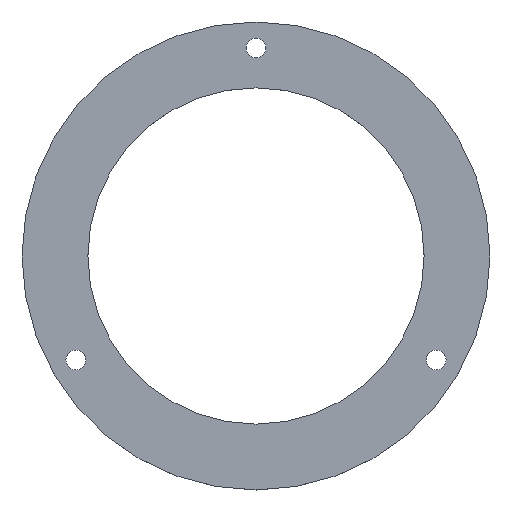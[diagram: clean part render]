
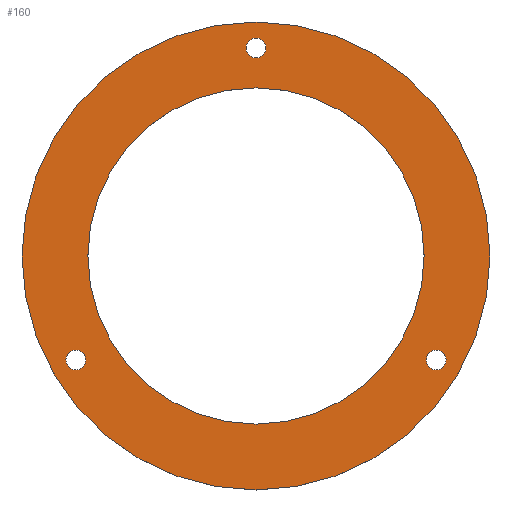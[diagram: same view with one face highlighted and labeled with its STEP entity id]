
A CAD part, top view. The second image highlights one B-rep face of the part: STEP entity #160.
In plain terms, the highlighted planar face has unit normal (0, 0, 1).
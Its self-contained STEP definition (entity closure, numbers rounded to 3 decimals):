
#22 = VERTEX_POINT('',#23);
#23 = CARTESIAN_POINT('',(27.,0.,2.2));
#32 = CYLINDRICAL_SURFACE('',#33,27.);
#33 = AXIS2_PLACEMENT_3D('',#34,#35,#36);
#34 = CARTESIAN_POINT('',(0.,0.,2.2));
#35 = DIRECTION('',(-0.,0.,1.));
#36 = DIRECTION('',(1.,0.,0.));
#79 = EDGE_CURVE('',#22,#22,#80,.T.);
#80 = SURFACE_CURVE('',#81,(#86,#93),.PCURVE_S1.);
#81 = CIRCLE('',#82,27.);
#82 = AXIS2_PLACEMENT_3D('',#83,#84,#85);
#83 = CARTESIAN_POINT('',(0.,0.,2.2));
#84 = DIRECTION('',(0.,0.,-1.));
#85 = DIRECTION('',(1.,0.,0.));
#86 = PCURVE('',#32,#87);
#87 = DEFINITIONAL_REPRESENTATION('',(#88),#92);
#88 = LINE('',#89,#90);
#89 = CARTESIAN_POINT('',(-0.,0.));
#90 = VECTOR('',#91,1.);
#91 = DIRECTION('',(-1.,0.));
#92 = ( GEOMETRIC_REPRESENTATION_CONTEXT(2) 
PARAMETRIC_REPRESENTATION_CONTEXT() REPRESENTATION_CONTEXT('2D SPACE',''
  ) );
#93 = PCURVE('',#94,#99);
#94 = PLANE('',#95);
#95 = AXIS2_PLACEMENT_3D('',#96,#97,#98);
#96 = CARTESIAN_POINT('',(0.,0.,2.2));
#97 = DIRECTION('',(0.,0.,-1.));
#98 = DIRECTION('',(1.,0.,0.));
#99 = DEFINITIONAL_REPRESENTATION('',(#100),#104);
#100 = CIRCLE('',#101,27.);
#101 = AXIS2_PLACEMENT_2D('',#102,#103);
#102 = CARTESIAN_POINT('',(0.,0.));
#103 = DIRECTION('',(1.,0.));
#104 = ( GEOMETRIC_REPRESENTATION_CONTEXT(2) 
PARAMETRIC_REPRESENTATION_CONTEXT() REPRESENTATION_CONTEXT('2D SPACE',''
  ) );
#160 = ADVANCED_FACE('',(#161,#164,#195,#226,#257),#94,.F.);
#161 = FACE_BOUND('',#162,.F.);
#162 = EDGE_LOOP('',(#163));
#163 = ORIENTED_EDGE('',*,*,#79,.T.);
#164 = FACE_BOUND('',#165,.F.);
#165 = EDGE_LOOP('',(#166));
#166 = ORIENTED_EDGE('',*,*,#167,.F.);
#167 = EDGE_CURVE('',#168,#168,#170,.T.);
#168 = VERTEX_POINT('',#169);
#169 = CARTESIAN_POINT('',(1.15,24.,2.2));
#170 = SURFACE_CURVE('',#171,(#176,#183),.PCURVE_S1.);
#171 = CIRCLE('',#172,1.15);
#172 = AXIS2_PLACEMENT_3D('',#173,#174,#175);
#173 = CARTESIAN_POINT('',(0.,24.,2.2));
#174 = DIRECTION('',(0.,0.,-1.));
#175 = DIRECTION('',(1.,0.,0.));
#176 = PCURVE('',#94,#177);
#177 = DEFINITIONAL_REPRESENTATION('',(#178),#182);
#178 = CIRCLE('',#179,1.15);
#179 = AXIS2_PLACEMENT_2D('',#180,#181);
#180 = CARTESIAN_POINT('',(0.,-24.));
#181 = DIRECTION('',(1.,0.));
#182 = ( GEOMETRIC_REPRESENTATION_CONTEXT(2) 
PARAMETRIC_REPRESENTATION_CONTEXT() REPRESENTATION_CONTEXT('2D SPACE',''
  ) );
#183 = PCURVE('',#184,#189);
#184 = CYLINDRICAL_SURFACE('',#185,1.15);
#185 = AXIS2_PLACEMENT_3D('',#186,#187,#188);
#186 = CARTESIAN_POINT('',(0.,24.,2.2));
#187 = DIRECTION('',(-0.,0.,1.));
#188 = DIRECTION('',(1.,0.,0.));
#189 = DEFINITIONAL_REPRESENTATION('',(#190),#194);
#190 = LINE('',#191,#192);
#191 = CARTESIAN_POINT('',(-0.,0.));
#192 = VECTOR('',#193,1.);
#193 = DIRECTION('',(-1.,0.));
#194 = ( GEOMETRIC_REPRESENTATION_CONTEXT(2) 
PARAMETRIC_REPRESENTATION_CONTEXT() REPRESENTATION_CONTEXT('2D SPACE',''
  ) );
#195 = FACE_BOUND('',#196,.F.);
#196 = EDGE_LOOP('',(#197));
#197 = ORIENTED_EDGE('',*,*,#198,.F.);
#198 = EDGE_CURVE('',#199,#199,#201,.T.);
#199 = VERTEX_POINT('',#200);
#200 = CARTESIAN_POINT('',(-19.635,-12.,2.2));
#201 = SURFACE_CURVE('',#202,(#207,#214),.PCURVE_S1.);
#202 = CIRCLE('',#203,1.15);
#203 = AXIS2_PLACEMENT_3D('',#204,#205,#206);
#204 = CARTESIAN_POINT('',(-20.785,-12.,2.2));
#205 = DIRECTION('',(0.,0.,-1.));
#206 = DIRECTION('',(1.,0.,0.));
#207 = PCURVE('',#94,#208);
#208 = DEFINITIONAL_REPRESENTATION('',(#209),#213);
#209 = CIRCLE('',#210,1.15);
#210 = AXIS2_PLACEMENT_2D('',#211,#212);
#211 = CARTESIAN_POINT('',(-20.785,12.));
#212 = DIRECTION('',(1.,0.));
#213 = ( GEOMETRIC_REPRESENTATION_CONTEXT(2) 
PARAMETRIC_REPRESENTATION_CONTEXT() REPRESENTATION_CONTEXT('2D SPACE',''
  ) );
#214 = PCURVE('',#215,#220);
#215 = CYLINDRICAL_SURFACE('',#216,1.15);
#216 = AXIS2_PLACEMENT_3D('',#217,#218,#219);
#217 = CARTESIAN_POINT('',(-20.785,-12.,2.2));
#218 = DIRECTION('',(-0.,0.,1.));
#219 = DIRECTION('',(1.,0.,0.));
#220 = DEFINITIONAL_REPRESENTATION('',(#221),#225);
#221 = LINE('',#222,#223);
#222 = CARTESIAN_POINT('',(-0.,0.));
#223 = VECTOR('',#224,1.);
#224 = DIRECTION('',(-1.,0.));
#225 = ( GEOMETRIC_REPRESENTATION_CONTEXT(2) 
PARAMETRIC_REPRESENTATION_CONTEXT() REPRESENTATION_CONTEXT('2D SPACE',''
  ) );
#226 = FACE_BOUND('',#227,.F.);
#227 = EDGE_LOOP('',(#228));
#228 = ORIENTED_EDGE('',*,*,#229,.F.);
#229 = EDGE_CURVE('',#230,#230,#232,.T.);
#230 = VERTEX_POINT('',#231);
#231 = CARTESIAN_POINT('',(19.4,0.,2.2));
#232 = SURFACE_CURVE('',#233,(#238,#245),.PCURVE_S1.);
#233 = CIRCLE('',#234,19.4);
#234 = AXIS2_PLACEMENT_3D('',#235,#236,#237);
#235 = CARTESIAN_POINT('',(0.,0.,2.2));
#236 = DIRECTION('',(0.,0.,-1.));
#237 = DIRECTION('',(1.,0.,0.));
#238 = PCURVE('',#94,#239);
#239 = DEFINITIONAL_REPRESENTATION('',(#240),#244);
#240 = CIRCLE('',#241,19.4);
#241 = AXIS2_PLACEMENT_2D('',#242,#243);
#242 = CARTESIAN_POINT('',(0.,0.));
#243 = DIRECTION('',(1.,0.));
#244 = ( GEOMETRIC_REPRESENTATION_CONTEXT(2) 
PARAMETRIC_REPRESENTATION_CONTEXT() REPRESENTATION_CONTEXT('2D SPACE',''
  ) );
#245 = PCURVE('',#246,#251);
#246 = CYLINDRICAL_SURFACE('',#247,19.4);
#247 = AXIS2_PLACEMENT_3D('',#248,#249,#250);
#248 = CARTESIAN_POINT('',(0.,0.,2.2));
#249 = DIRECTION('',(-0.,0.,1.));
#250 = DIRECTION('',(1.,0.,0.));
#251 = DEFINITIONAL_REPRESENTATION('',(#252),#256);
#252 = LINE('',#253,#254);
#253 = CARTESIAN_POINT('',(-0.,0.));
#254 = VECTOR('',#255,1.);
#255 = DIRECTION('',(-1.,0.));
#256 = ( GEOMETRIC_REPRESENTATION_CONTEXT(2) 
PARAMETRIC_REPRESENTATION_CONTEXT() REPRESENTATION_CONTEXT('2D SPACE',''
  ) );
#257 = FACE_BOUND('',#258,.F.);
#258 = EDGE_LOOP('',(#259));
#259 = ORIENTED_EDGE('',*,*,#260,.F.);
#260 = EDGE_CURVE('',#261,#261,#263,.T.);
#261 = VERTEX_POINT('',#262);
#262 = CARTESIAN_POINT('',(21.935,-12.,2.2));
#263 = SURFACE_CURVE('',#264,(#269,#276),.PCURVE_S1.);
#264 = CIRCLE('',#265,1.15);
#265 = AXIS2_PLACEMENT_3D('',#266,#267,#268);
#266 = CARTESIAN_POINT('',(20.785,-12.,2.2));
#267 = DIRECTION('',(0.,0.,-1.));
#268 = DIRECTION('',(1.,0.,0.));
#269 = PCURVE('',#94,#270);
#270 = DEFINITIONAL_REPRESENTATION('',(#271),#275);
#271 = CIRCLE('',#272,1.15);
#272 = AXIS2_PLACEMENT_2D('',#273,#274);
#273 = CARTESIAN_POINT('',(20.785,12.));
#274 = DIRECTION('',(1.,0.));
#275 = ( GEOMETRIC_REPRESENTATION_CONTEXT(2) 
PARAMETRIC_REPRESENTATION_CONTEXT() REPRESENTATION_CONTEXT('2D SPACE',''
  ) );
#276 = PCURVE('',#277,#282);
#277 = CYLINDRICAL_SURFACE('',#278,1.15);
#278 = AXIS2_PLACEMENT_3D('',#279,#280,#281);
#279 = CARTESIAN_POINT('',(20.785,-12.,2.2));
#280 = DIRECTION('',(-0.,0.,1.));
#281 = DIRECTION('',(1.,0.,0.));
#282 = DEFINITIONAL_REPRESENTATION('',(#283),#287);
#283 = LINE('',#284,#285);
#284 = CARTESIAN_POINT('',(-0.,0.));
#285 = VECTOR('',#286,1.);
#286 = DIRECTION('',(-1.,0.));
#287 = ( GEOMETRIC_REPRESENTATION_CONTEXT(2) 
PARAMETRIC_REPRESENTATION_CONTEXT() REPRESENTATION_CONTEXT('2D SPACE',''
  ) );
